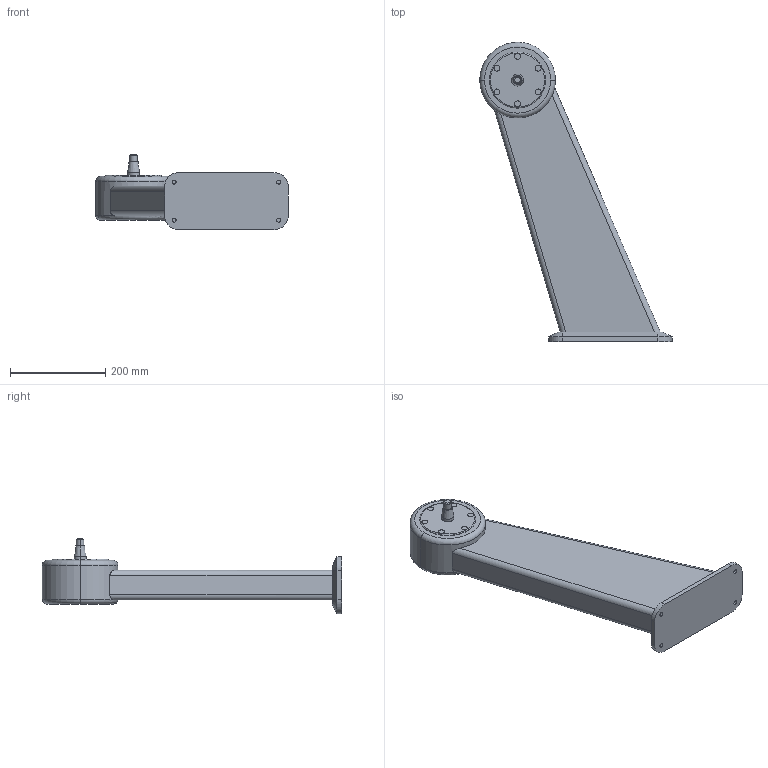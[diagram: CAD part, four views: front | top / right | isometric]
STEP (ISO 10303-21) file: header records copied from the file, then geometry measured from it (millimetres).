
FILE_DESCRIPTION (( 'STEP AP214' ), '1' );
FILE_NAME ('WP700_H550_+20.STEP', '2014-08-14T09:43:05', ( '' ), ( '' ), 'SwSTEP 2.0', 'SolidWorks 2014', '' );
FILE_SCHEMA (( 'AUTOMOTIVE_DESIGN' ));
Length unit declared in the file: millimetre
Products named in the file (1): WP700_H550_+20
Bounding box: 404.69 x 629.5 x 158.3 mm (x, y, z)
Volume: 7537423.9 mm3; surface area: 354346.4 mm2
Topology: 1 solids, 1 shells, 79 faces, 171 edges, 108 vertices
Faces by surface type: cylinder 36, plane 29, cone 8, torus 6
Entity records: 2294 total; most frequent: CARTESIAN_POINT 475, DIRECTION 408, ORIENTED_EDGE 342, EDGE_CURVE 171, AXIS2_PLACEMENT_3D 167, VERTEX_POINT 108, EDGE_LOOP 93, CIRCLE 87
